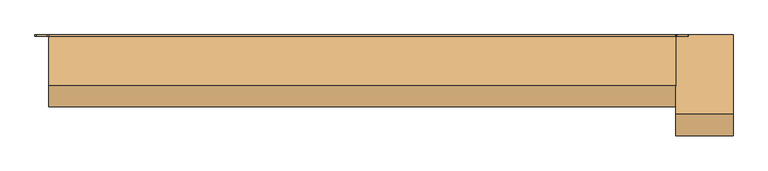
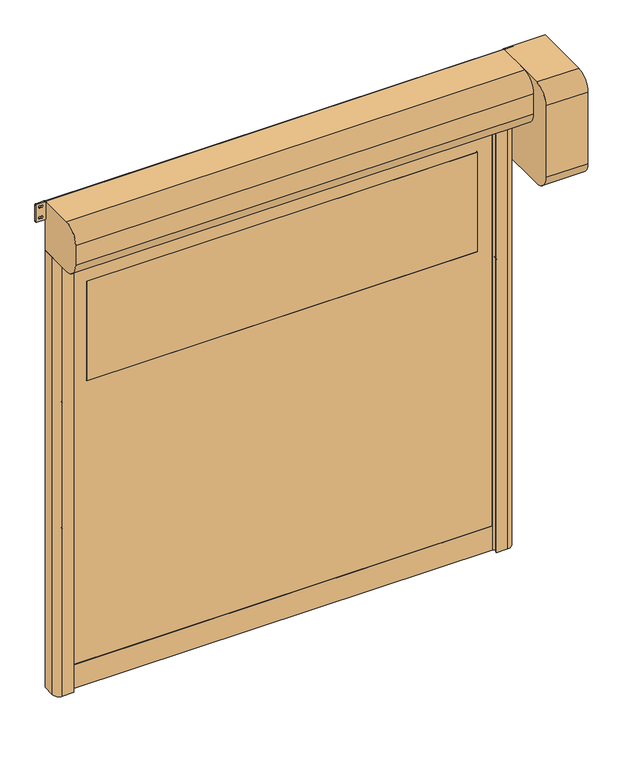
"""IFC4 building model written with IfcOpenShell, lengths in millimetres: door geometry, DO_WPB_Dynamicroll_BMP : Dynamicroll-90."""

from ifc_helpers import new_model, si_unit, point, frame, frame_2d, origin, origin_with_axes, place, context, project, spatial, polyline, circle_curve, trimmed, segment, composite_curve, outline, extrude, source, transform, mapped, element, save


def door_544569be(model_context):
    return source(origin(), model_context, "Body", "SweptSolid", [
        extrude(outline(composite_curve([segment(trimmed(circle_curve(frame_2d((1416.6666667, 1024.0)), 6.0), [point((1422.6666667, 1024.0))], [point((1410.6666667, 1024.0))], False, "CARTESIAN"), True, "CONTINUOUS"), segment(polyline([(1410.6666667, 1024.0), (1410.6666667, 1042.0)]), True, "CONTINUOUS"), segment(trimmed(circle_curve(frame_2d((1416.6666667, 1042.0)), 6.0), [point((1410.6666667, 1042.0))], [point((1422.6666667, 1042.0))], False, "CARTESIAN"), True, "CONTINUOUS"), segment(polyline([(1422.6666667, 1042.0), (1422.6666667, 1024.0)]), True, "CONTINUOUS")], self_intersect=False)), frame((0.0, -20.0, 0.0), z_axis=(0.0, 1.0, 0.0), x_axis=(0.0, 0.0, 1.0)), (0.0, 0.0, 1.0), 20.0),
        extrude(outline(composite_curve([segment(trimmed(circle_curve(frame_2d((783.3333333, 1024.0)), 6.0), [point((789.3333333, 1024.0))], [point((777.3333333, 1024.0))], False, "CARTESIAN"), True, "CONTINUOUS"), segment(polyline([(777.3333333, 1024.0), (777.3333333, 1042.0)]), True, "CONTINUOUS"), segment(trimmed(circle_curve(frame_2d((783.3333333, 1042.0)), 6.0), [point((777.3333333, 1042.0))], [point((789.3333333, 1042.0))], False, "CARTESIAN"), True, "CONTINUOUS"), segment(polyline([(789.3333333, 1042.0), (789.3333333, 1024.0)]), True, "CONTINUOUS")], self_intersect=False)), frame((0.0, -20.0, 0.0), z_axis=(0.0, 1.0, 0.0), x_axis=(0.0, 0.0, 1.0)), (0.0, 0.0, 1.0), 20.0),
        extrude(outline(composite_curve([segment(trimmed(circle_curve(frame_2d((2050.0, 1024.0)), 6.0), [point((2056.0, 1024.0))], [point((2044.0, 1024.0))], False, "CARTESIAN"), True, "CONTINUOUS"), segment(polyline([(2044.0, 1024.0), (2044.0, 1042.0)]), True, "CONTINUOUS"), segment(trimmed(circle_curve(frame_2d((2050.0, 1042.0)), 6.0), [point((2044.0, 1042.0))], [point((2056.0, 1042.0))], False, "CARTESIAN"), True, "CONTINUOUS"), segment(polyline([(2056.0, 1042.0), (2056.0, 1024.0)]), True, "CONTINUOUS")], self_intersect=False)), frame((0.0, -20.0, 0.0), z_axis=(0.0, 1.0, 0.0), x_axis=(0.0, 0.0, 1.0)), (0.0, 0.0, 1.0), 20.0),
        extrude(outline(composite_curve([segment(trimmed(circle_curve(frame_2d((150.0, 1024.0)), 6.0), [point((156.0, 1024.0))], [point((144.0, 1024.0))], False, "CARTESIAN"), True, "CONTINUOUS"), segment(polyline([(144.0, 1024.0), (144.0, 1042.0)]), True, "CONTINUOUS"), segment(trimmed(circle_curve(frame_2d((150.0, 1042.0)), 6.0), [point((144.0, 1042.0))], [point((156.0, 1042.0))], False, "CARTESIAN"), True, "CONTINUOUS"), segment(polyline([(156.0, 1042.0), (156.0, 1024.0)]), True, "CONTINUOUS")], self_intersect=False)), frame((0.0, -20.0, 0.0), z_axis=(0.0, 1.0, 0.0), x_axis=(0.0, 0.0, 1.0)), (0.0, 0.0, 1.0), 20.0),
        extrude(outline(composite_curve([segment(polyline([(1422.6666667, -1024.0), (1422.6666667, -1042.0)]), True, "CONTINUOUS"), segment(trimmed(circle_curve(frame_2d((1416.6666667, -1042.0)), 6.0), [point((1422.6666667, -1042.0))], [point((1410.6666667, -1042.0))], False, "CARTESIAN"), True, "CONTINUOUS"), segment(polyline([(1410.6666667, -1042.0), (1410.6666667, -1024.0)]), True, "CONTINUOUS"), segment(trimmed(circle_curve(frame_2d((1416.6666667, -1024.0)), 6.0), [point((1410.6666667, -1024.0))], [point((1422.6666667, -1024.0))], False, "CARTESIAN"), True, "CONTINUOUS")], self_intersect=False)), frame((0.0, -20.0, 0.0), z_axis=(0.0, 1.0, 0.0), x_axis=(0.0, 0.0, 1.0)), (0.0, 0.0, 1.0), 20.0),
        extrude(outline(composite_curve([segment(polyline([(789.3333333, -1024.0), (789.3333333, -1042.0)]), True, "CONTINUOUS"), segment(trimmed(circle_curve(frame_2d((783.3333333, -1042.0)), 6.0), [point((789.3333333, -1042.0))], [point((777.3333333, -1042.0))], False, "CARTESIAN"), True, "CONTINUOUS"), segment(polyline([(777.3333333, -1042.0), (777.3333333, -1024.0)]), True, "CONTINUOUS"), segment(trimmed(circle_curve(frame_2d((783.3333333, -1024.0)), 6.0), [point((777.3333333, -1024.0))], [point((789.3333333, -1024.0))], False, "CARTESIAN"), True, "CONTINUOUS")], self_intersect=False)), frame((0.0, -20.0, 0.0), z_axis=(0.0, 1.0, 0.0), x_axis=(0.0, 0.0, 1.0)), (0.0, 0.0, 1.0), 20.0),
        extrude(outline(composite_curve([segment(polyline([(2056.0, -1024.0), (2056.0, -1042.0)]), True, "CONTINUOUS"), segment(trimmed(circle_curve(frame_2d((2050.0, -1042.0)), 6.0), [point((2056.0, -1042.0))], [point((2044.0, -1042.0))], False, "CARTESIAN"), True, "CONTINUOUS"), segment(polyline([(2044.0, -1042.0), (2044.0, -1024.0)]), True, "CONTINUOUS"), segment(trimmed(circle_curve(frame_2d((2050.0, -1024.0)), 6.0), [point((2044.0, -1024.0))], [point((2056.0, -1024.0))], False, "CARTESIAN"), True, "CONTINUOUS")], self_intersect=False)), frame((0.0, -20.0, 0.0), z_axis=(0.0, 1.0, 0.0), x_axis=(0.0, 0.0, 1.0)), (0.0, 0.0, 1.0), 20.0),
        extrude(outline(composite_curve([segment(polyline([(156.0, -1024.0), (156.0, -1042.0)]), True, "CONTINUOUS"), segment(trimmed(circle_curve(frame_2d((150.0, -1042.0)), 6.0), [point((156.0, -1042.0))], [point((144.0, -1042.0))], False, "CARTESIAN"), True, "CONTINUOUS"), segment(polyline([(144.0, -1042.0), (144.0, -1024.0)]), True, "CONTINUOUS"), segment(trimmed(circle_curve(frame_2d((150.0, -1024.0)), 6.0), [point((144.0, -1024.0))], [point((156.0, -1024.0))], False, "CARTESIAN"), True, "CONTINUOUS")], self_intersect=False)), frame((0.0, -20.0, 0.0), z_axis=(0.0, 1.0, 0.0), x_axis=(0.0, 0.0, 1.0)), (0.0, 0.0, 1.0), 20.0),
        extrude(outline(composite_curve([segment(trimmed(circle_curve(frame_2d((1526.0, 929.0)), 1.0), [point((1525.0, 929.0))], [point((1526.0, 930.0))], False, "CARTESIAN"), True, "CONTINUOUS"), segment(polyline([(1526.0, 930.0), (2024.0, 930.0)]), True, "CONTINUOUS"), segment(trimmed(circle_curve(frame_2d((2024.0, 929.0)), 1.0), [point((2024.0, 930.0))], [point((2025.0, 929.0))], False, "CARTESIAN"), True, "CONTINUOUS"), segment(polyline([(2025.0, 929.0), (2025.0, -929.0)]), True, "CONTINUOUS"), segment(trimmed(circle_curve(frame_2d((2024.0, -929.0)), 1.0), [point((2025.0, -929.0))], [point((2024.0, -930.0))], False, "CARTESIAN"), True, "CONTINUOUS"), segment(polyline([(2024.0, -930.0), (1526.0, -930.0)]), True, "CONTINUOUS"), segment(trimmed(circle_curve(frame_2d((1526.0, -929.0)), 1.0), [point((1526.0, -930.0))], [point((1525.0, -929.0))], False, "CARTESIAN"), True, "CONTINUOUS"), segment(polyline([(1525.0, -929.0), (1525.0, 929.0)]), True, "CONTINUOUS")], self_intersect=False)), frame((0.0, -63.5, 0.0), z_axis=(0.0, 1.0, 0.0), x_axis=(0.0, 0.0, 1.0)), (0.0, 0.0, 1.0), 7.0),
        extrude(outline(polyline([(120.0, -1012.0), (120.0, 1012.0), (2325.0, 1012.0), (2325.0, -1012.0), (120.0, -1012.0)]), holes=[composite_curve([segment(trimmed(circle_curve(frame_2d((1526.0, 929.0)), 1.0), [point((1526.0, 930.0))], [point((1525.0, 929.0))], True, "CARTESIAN"), True, "CONTINUOUS"), segment(polyline([(1525.0, 929.0), (1525.0, -929.0)]), True, "CONTINUOUS"), segment(trimmed(circle_curve(frame_2d((1526.0, -929.0)), 1.0), [point((1525.0, -929.0))], [point((1526.0, -930.0))], True, "CARTESIAN"), True, "CONTINUOUS"), segment(polyline([(1526.0, -930.0), (2024.0, -930.0)]), True, "CONTINUOUS"), segment(trimmed(circle_curve(frame_2d((2024.0, -929.0)), 1.0), [point((2024.0, -930.0))], [point((2025.0, -929.0))], True, "CARTESIAN"), True, "CONTINUOUS"), segment(polyline([(2025.0, -929.0), (2025.0, 929.0)]), True, "CONTINUOUS"), segment(trimmed(circle_curve(frame_2d((2024.0, 929.0)), 1.0), [point((2025.0, 929.0))], [point((2024.0, 930.0))], True, "CARTESIAN"), True, "CONTINUOUS"), segment(polyline([(2024.0, 930.0), (1526.0, 930.0)]), True, "CONTINUOUS")], self_intersect=False)]), frame((0.0, -63.5, 0.0), z_axis=(0.0, 1.0, 0.0), x_axis=(0.0, 0.0, 1.0)), (0.0, 0.0, 1.0), 7.0),
        extrude(outline(polyline([(-1012.0, -54.5), (1012.0, -54.5), (1012.0, -65.5), (-1012.0, -65.5), (-1012.0, -54.5)])), origin_with_axes(), (0.0, 0.0, 1.0), 120.0),
        extrude(outline(composite_curve([segment(polyline([(-1090.0, 0.0), (-1015.0, 0.0), (-1015.0, -44.2857143), (-1035.0, -50.0), (-1000.0, -50.0), (-1000.0, -56.5), (-1020.0, -56.5), (-1020.0, -63.5), (-1000.0, -63.5), (-1000.0, -70.0), (-1035.0, -70.0), (-1035.0, -85.0), (-1005.0, -85.0), (-1005.0, -90.0), (-1060.0, -90.0)]), True, "CONTINUOUS"), segment(trimmed(circle_curve(frame_2d((-1060.0, -60.0)), 30.0), [point((-1060.0, -90.0))], [point((-1090.0, -60.0))], False, "CARTESIAN"), True, "CONTINUOUS"), segment(polyline([(-1090.0, -60.0), (-1090.0, 0.0)]), True, "CONTINUOUS")], self_intersect=False)), origin_with_axes(), (0.0, 0.0, 1.0), 2200.0),
        extrude(outline(composite_curve([segment(polyline([(1090.0, 0.0), (1090.0, -60.0)]), True, "CONTINUOUS"), segment(trimmed(circle_curve(frame_2d((1060.0, -60.0)), 30.0), [point((1090.0, -60.0))], [point((1060.0, -90.0))], False, "CARTESIAN"), True, "CONTINUOUS"), segment(polyline([(1060.0, -90.0), (1005.0, -90.0), (1005.0, -85.0), (1035.0, -85.0), (1035.0, -70.0), (1000.0, -70.0), (1000.0, -63.5), (1020.0, -63.5), (1020.0, -56.5), (1000.0, -56.5), (1000.0, -50.0), (1035.0, -50.0), (1015.0, -44.2857143), (1015.0, 0.0), (1090.0, 0.0)]), True, "CONTINUOUS")], self_intersect=False)), origin_with_axes(), (0.0, 0.0, 1.0), 2200.0),
        extrude(outline(composite_curve([segment(trimmed(circle_curve(frame_2d((2363.75, -1133.25)), 5.75), [point((2363.75, -1139.0))], [point((2358.0, -1133.25))], False, "CARTESIAN"), True, "CONTINUOUS"), segment(polyline([(2358.0, -1133.25), (2358.0, -1095.75)]), True, "CONTINUOUS"), segment(trimmed(circle_curve(frame_2d((2363.75, -1095.75)), 5.75), [point((2358.0, -1095.75))], [point((2363.75, -1090.0))], False, "CARTESIAN"), True, "CONTINUOUS"), segment(polyline([(2363.75, -1090.0), (2444.25, -1090.0)]), True, "CONTINUOUS"), segment(trimmed(circle_curve(frame_2d((2444.25, -1095.75)), 5.75), [point((2444.25, -1090.0))], [point((2450.0, -1095.75))], False, "CARTESIAN"), True, "CONTINUOUS"), segment(polyline([(2450.0, -1095.75), (2450.0, -1133.25)]), True, "CONTINUOUS"), segment(trimmed(circle_curve(frame_2d((2444.25, -1133.25)), 5.75), [point((2450.0, -1133.25))], [point((2444.25, -1139.0))], False, "CARTESIAN"), True, "CONTINUOUS"), segment(polyline([(2444.25, -1139.0), (2363.75, -1139.0)]), True, "CONTINUOUS")], self_intersect=False), holes=[composite_curve([segment(trimmed(circle_curve(frame_2d((2431.5, -1110.25)), 5.75), [point((2437.25, -1110.25))], [point((2425.75, -1110.25))], True, "CARTESIAN"), True, "CONTINUOUS"), segment(polyline([(2425.75, -1110.25), (2425.75, -1118.75)]), True, "CONTINUOUS"), segment(trimmed(circle_curve(frame_2d((2431.5, -1118.75)), 5.75), [point((2425.75, -1118.75))], [point((2437.25, -1118.75))], True, "CARTESIAN"), True, "CONTINUOUS"), segment(polyline([(2437.25, -1118.75), (2437.25, -1110.25)]), True, "CONTINUOUS")], self_intersect=False), composite_curve([segment(trimmed(circle_curve(frame_2d((2376.5, -1110.25)), 5.75), [point((2382.25, -1110.25))], [point((2370.75, -1110.25))], True, "CARTESIAN"), True, "CONTINUOUS"), segment(polyline([(2370.75, -1110.25), (2370.75, -1118.75)]), True, "CONTINUOUS"), segment(trimmed(circle_curve(frame_2d((2376.5, -1118.75)), 5.75), [point((2370.75, -1118.75))], [point((2382.25, -1118.75))], True, "CARTESIAN"), True, "CONTINUOUS"), segment(polyline([(2382.25, -1118.75), (2382.25, -1110.25)]), True, "CONTINUOUS")], self_intersect=False)]), frame((0.0, -5.0, 0.0), z_axis=(0.0, 1.0, 0.0), x_axis=(0.0, 0.0, 1.0)), (0.0, 0.0, 1.0), 5.0),
        extrude(outline(composite_curve([segment(trimmed(circle_curve(frame_2d((2363.75, 1095.75)), 5.75), [point((2363.75, 1090.0))], [point((2358.0, 1095.75))], False, "CARTESIAN"), True, "CONTINUOUS"), segment(polyline([(2358.0, 1095.75), (2358.0, 1133.25)]), True, "CONTINUOUS"), segment(trimmed(circle_curve(frame_2d((2363.75, 1133.25)), 5.75), [point((2358.0, 1133.25))], [point((2363.75, 1139.0))], False, "CARTESIAN"), True, "CONTINUOUS"), segment(polyline([(2363.75, 1139.0), (2444.25, 1139.0)]), True, "CONTINUOUS"), segment(trimmed(circle_curve(frame_2d((2444.25, 1133.25)), 5.75), [point((2444.25, 1139.0))], [point((2450.0, 1133.25))], False, "CARTESIAN"), True, "CONTINUOUS"), segment(polyline([(2450.0, 1133.25), (2450.0, 1095.75)]), True, "CONTINUOUS"), segment(trimmed(circle_curve(frame_2d((2444.25, 1095.75)), 5.75), [point((2450.0, 1095.75))], [point((2444.25, 1090.0))], False, "CARTESIAN"), True, "CONTINUOUS"), segment(polyline([(2444.25, 1090.0), (2363.75, 1090.0)]), True, "CONTINUOUS")], self_intersect=False), holes=[composite_curve([segment(trimmed(circle_curve(frame_2d((2431.5, 1118.75)), 5.75), [point((2437.25, 1118.75))], [point((2425.75, 1118.75))], True, "CARTESIAN"), True, "CONTINUOUS"), segment(polyline([(2425.75, 1118.75), (2425.75, 1110.25)]), True, "CONTINUOUS"), segment(trimmed(circle_curve(frame_2d((2431.5, 1110.25)), 5.75), [point((2425.75, 1110.25))], [point((2437.25, 1110.25))], True, "CARTESIAN"), True, "CONTINUOUS"), segment(polyline([(2437.25, 1110.25), (2437.25, 1118.75)]), True, "CONTINUOUS")], self_intersect=False), composite_curve([segment(trimmed(circle_curve(frame_2d((2376.5, 1118.75)), 5.75), [point((2382.25, 1118.75))], [point((2370.75, 1118.75))], True, "CARTESIAN"), True, "CONTINUOUS"), segment(polyline([(2370.75, 1118.75), (2370.75, 1110.25)]), True, "CONTINUOUS"), segment(trimmed(circle_curve(frame_2d((2376.5, 1110.25)), 5.75), [point((2370.75, 1110.25))], [point((2382.25, 1110.25))], True, "CARTESIAN"), True, "CONTINUOUS"), segment(polyline([(2382.25, 1110.25), (2382.25, 1118.75)]), True, "CONTINUOUS")], self_intersect=False)]), frame((0.0, -5.0, 0.0), z_axis=(0.0, 1.0, 0.0), x_axis=(0.0, 0.0, 1.0)), (0.0, 0.0, 1.0), 5.0),
        extrude(outline(composite_curve([segment(trimmed(circle_curve(frame_2d((-5.0, 2205.0)), 5.0), [point((0.0, 2205.0))], [point((-5.0, 2200.0))], False, "CARTESIAN"), True, "CONTINUOUS"), segment(polyline([(-5.0, 2200.0), (-175.0, 2200.0)]), True, "CONTINUOUS"), segment(trimmed(circle_curve(frame_2d((-175.0, 2275.0)), 75.0), [point((-175.0, 2200.0))], [point((-250.0, 2275.0))], False, "CARTESIAN"), True, "CONTINUOUS"), segment(polyline([(-250.0, 2275.0), (-250.0, 2375.0)]), True, "CONTINUOUS"), segment(trimmed(circle_curve(frame_2d((-175.0, 2375.0)), 75.0), [point((-250.0, 2375.0))], [point((-175.0, 2450.0))], False, "CARTESIAN"), True, "CONTINUOUS"), segment(polyline([(-175.0, 2450.0), (-5.0, 2450.0)]), True, "CONTINUOUS"), segment(trimmed(circle_curve(frame_2d((-5.0, 2445.0)), 5.0), [point((-5.0, 2450.0))], [point((0.0, 2445.0))], False, "CARTESIAN"), True, "CONTINUOUS"), segment(polyline([(0.0, 2445.0), (0.0, 2205.0)]), True, "CONTINUOUS")], self_intersect=False)), frame((-1090.0, 0.0, 0.0), z_axis=(1.0, 0.0, 0.0), x_axis=(0.0, 1.0, 0.0)), (0.0, 0.0, 1.0), 2180.0),
        extrude(outline(composite_curve([segment(polyline([(0.0, 2450.0), (0.0, 1940.0), (-275.0, 1940.0)]), True, "CONTINUOUS"), segment(trimmed(circle_curve(frame_2d((-275.0, 2015.0)), 75.0), [point((-275.0, 1940.0))], [point((-350.0, 2015.0))], False, "CARTESIAN"), True, "CONTINUOUS"), segment(polyline([(-350.0, 2015.0), (-350.0, 2375.0)]), True, "CONTINUOUS"), segment(trimmed(circle_curve(frame_2d((-275.0, 2375.0)), 75.0), [point((-350.0, 2375.0))], [point((-275.0, 2450.0))], False, "CARTESIAN"), True, "CONTINUOUS"), segment(polyline([(-275.0, 2450.0), (0.0, 2450.0)]), True, "CONTINUOUS")], self_intersect=False)), frame((1090.0, 0.0, 0.0), z_axis=(1.0, 0.0, 0.0), x_axis=(0.0, 1.0, 0.0)), (0.0, 0.0, 1.0), 200.0),
    ])


if __name__ == "__main__":
    model = new_model("IFC4")
    model_context = context("Model", 3, world=origin())
    ifc_project = project(units=[si_unit("LENGTHUNIT", "METRE", prefix="MILLI")], contexts=[model_context])
    site = spatial("IfcSite", under=ifc_project)
    building = spatial("IfcBuilding", under=site)
    placement = place(None, origin())
    door_shape = door_544569be(model_context)
    element("IfcDoor", 1, ObjectType="DO_WPB_Dynamicroll_BMP : Dynamicroll-90", at=placement, inside=building, context=model_context, shape_type="MappedRepresentation", body=[
        mapped(door_shape, transform((0.0, 0.0, 0.0), x_axis=(1.0, 0.0, 0.0), y_axis=(0.0, 1.0, 0.0), z_axis=(0.0, 0.0, 1.0))),
    ])
    save(model, "model.ifc")
